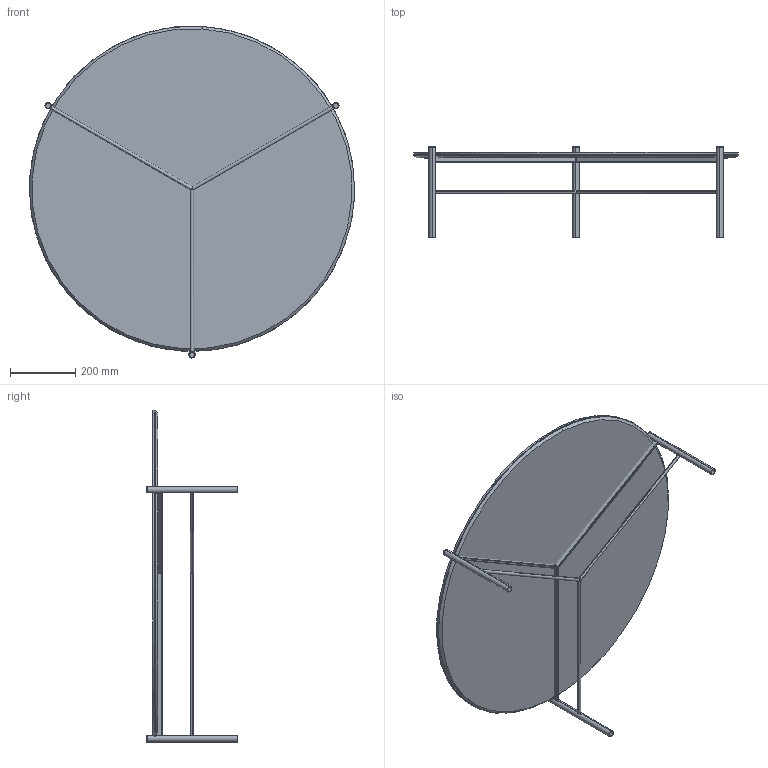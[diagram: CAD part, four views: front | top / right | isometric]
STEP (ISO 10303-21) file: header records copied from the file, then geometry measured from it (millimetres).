
FILE_DESCRIPTION (( 'STEP AP203' ), '1' );
FILE_NAME ('J103C.STEP', '2024-08-06T11:44:06', ( '' ), ( '' ), 'SwSTEP 2.0', 'SolidWorks 2022', '' );
FILE_SCHEMA (( 'CONFIG_CONTROL_DESIGN' ));
Length unit declared in the file: millimetre
Products named in the file (3): J103C; JXXXS00000000-00-jack metallo grezzo tutte le misure_J103S00000000-JACK TAVOLINO D.100x26h<A macchina>; K1XCMXX-00-Piani Rotondi in ceramica_D.1000
Assembly tree (2 placements, depth 2):
  J103C
    JXXXS00000000-00-jack metallo grezzo tutte le misure_J103S00000000-JACK TAVOLINO D.100x26h<A macchina>
    K1XCMXX-00-Piani Rotondi in ceramica_D.1000
Bounding box: 999.98 x 279 x 1020.07 mm (x, y, z)
Volume: 15036276.3 mm3; surface area: 5090366.3 mm2
Topology: 15 solids, 15 shells, 131 faces, 303 edges, 200 vertices
Faces by surface type: cylinder 75, plane 54, cone 2
Entity records: 4646 total; most frequent: CARTESIAN_POINT 1463, ORIENTED_EDGE 606, DIRECTION 569, EDGE_CURVE 303, AXIS2_PLACEMENT_3D 208, VERTEX_POINT 200, LINE 153, VECTOR 153
